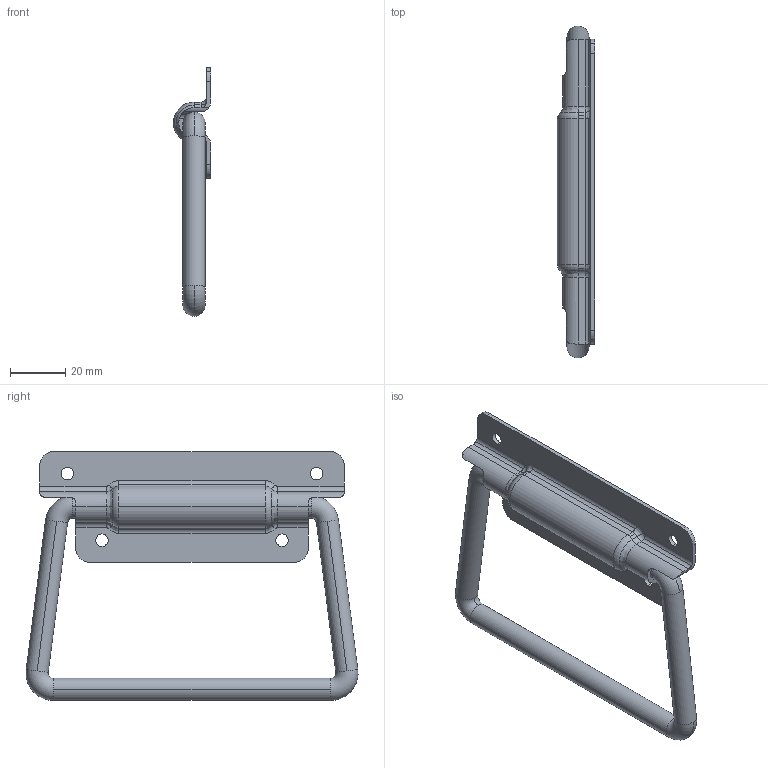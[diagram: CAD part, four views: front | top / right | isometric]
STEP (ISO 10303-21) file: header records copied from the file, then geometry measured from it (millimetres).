
FILE_DESCRIPTION((''),'2;1');
FILE_NAME('3511.stp','2023-10-09T14:53:31',(''),(''),'Mechanical Desktop 2006','Mechanical Desktop 2006',', , ');
FILE_SCHEMA(('CONFIG_CONTROL_DESIGN'));
Length unit declared in the file: millimetre
Products named in the file (3): 3511.04; OBERTEIL KISTENG 1056; BUGEL 1056
Assembly tree (2 placements, depth 2):
  3511.04
    OBERTEIL KISTENG 1056
    BUGEL 1056
Bounding box: 13.5 x 119.86 x 89.87 mm (x, y, z)
Volume: 27264.7 mm3; surface area: 19043.2 mm2
Topology: 2 solids, 2 shells, 114 faces, 302 edges, 192 vertices
Faces by surface type: cylinder 70, plane 22, bspline 12, torus 10
Entity records: 4045 total; most frequent: CARTESIAN_POINT 1019, DIRECTION 656, ORIENTED_EDGE 604, EDGE_CURVE 302, AXIS2_PLACEMENT_3D 269, VERTEX_POINT 192, CIRCLE 164, EDGE_LOOP 122
